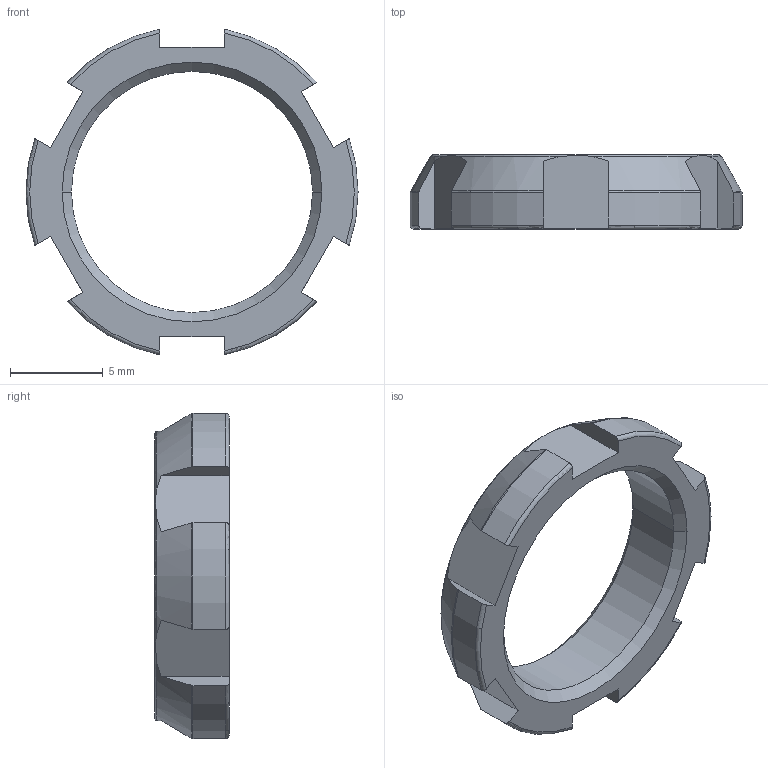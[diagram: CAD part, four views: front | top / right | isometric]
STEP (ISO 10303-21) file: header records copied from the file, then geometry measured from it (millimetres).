
FILE_DESCRIPTION((''),'2;1');
FILE_NAME('00043867','2014-03-04T',('SUnterbluemhuber'),(''),'PRO/ENGINEER BY PARAMETRIC TECHNOLOGY CORPORATION, 2013050','PRO/ENGINEER BY PARAMETRIC TECHNOLOGY CORPORATION, 2013050','');
FILE_SCHEMA(('AUTOMOTIVE_DESIGN { 1 0 10303 214 1 1 1 1 }'));
Length unit declared in the file: millimetre
Products named in the file (1): 00043867
Bounding box: 17.9 x 4 x 17.55 mm (x, y, z)
Volume: 337 mm3; surface area: 552.6 mm2
Topology: 1 solids, 1 shells, 52 faces, 146 edges, 96 vertices
Faces by surface type: plane 20, torus 14, cone 10, cylinder 8
Entity records: 2487 total; most frequent: CARTESIAN_POINT 594, ORIENTED_EDGE 292, DIRECTION 240, PRESENTATION_STYLE_ASSIGNMENT 147, STYLED_ITEM 147, CURVE_STYLE 146, EDGE_CURVE 146, AXIS2_PLACEMENT_3D 96
